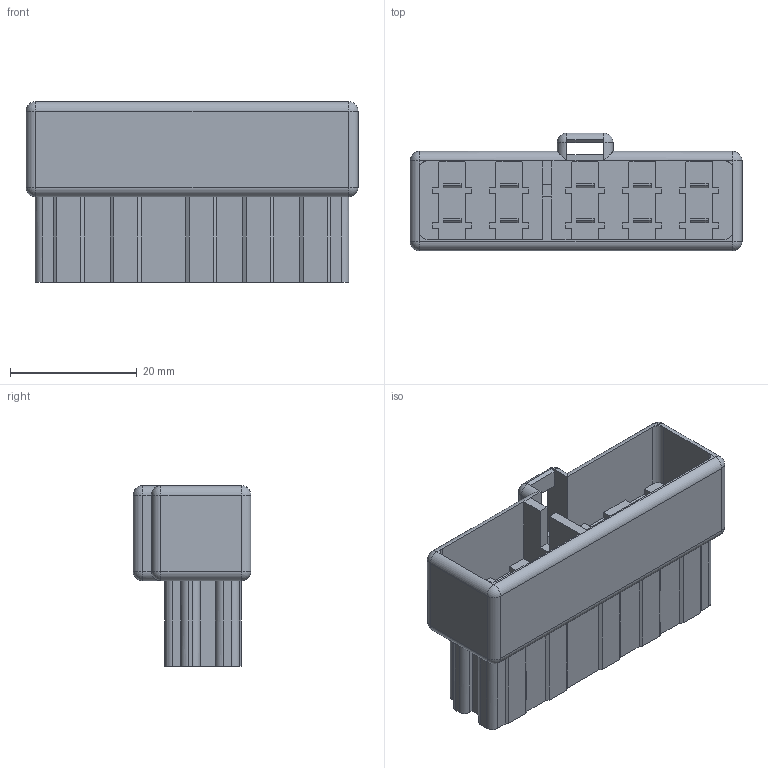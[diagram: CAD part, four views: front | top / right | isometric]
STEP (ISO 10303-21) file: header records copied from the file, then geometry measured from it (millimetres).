
FILE_DESCRIPTION((''),'2;1');
FILE_NAME('C-172137-1','2011-01-31T',('workeradm'),('Tyco Electronics Ltd.'),'PRO/ENGINEER BY PARAMETRIC TECHNOLOGY CORPORATION, 2009300','PRO/ENGINEER BY PARAMETRIC TECHNOLOGY CORPORATION, 2009300','');
FILE_SCHEMA(('AUTOMOTIVE_DESIGN { 1 0 10303 214 1 1 1 1 }'));
Length unit declared in the file: millimetre
Products named in the file (1): C-172137-1
Bounding box: 52.4 x 18.6 x 28.5 mm (x, y, z)
Volume: 12666.4 mm3; surface area: 7496.5 mm2
Topology: 1 solids, 1 shells, 494 faces, 1318 edges, 844 vertices
Faces by surface type: plane 443, cylinder 39, sphere 12
Entity records: 15292 total; most frequent: CARTESIAN_POINT 2724, ORIENTED_EDGE 2636, DIRECTION 2368, EDGE_CURVE 1318, VECTOR 1232, LINE 1232, VERTEX_POINT 844, AXIS2_PLACEMENT_3D 568
